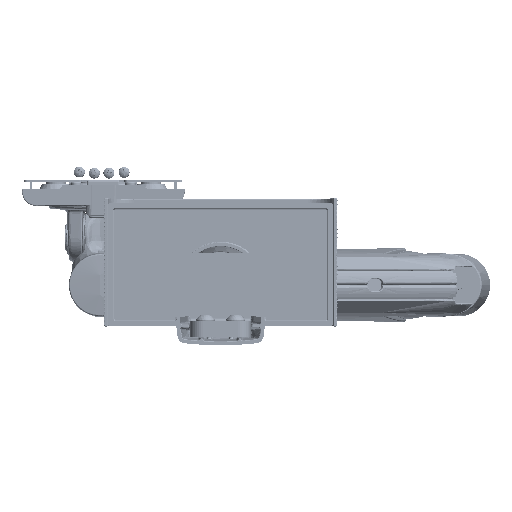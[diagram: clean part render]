
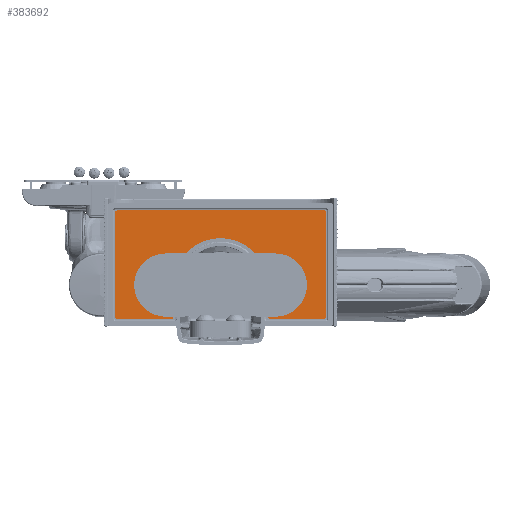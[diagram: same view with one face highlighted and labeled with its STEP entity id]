
A CAD part, front view. The second image highlights one B-rep face of the part: STEP entity #383692.
In plain terms, the highlighted planar face has unit normal (0, -1, 0).
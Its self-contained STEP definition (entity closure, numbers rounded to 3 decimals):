
#42203=LINE('',#876486,#66081);
#42206=LINE('',#876495,#66084);
#42209=LINE('',#876504,#66087);
#42215=LINE('',#876519,#66093);
#42217=LINE('',#876525,#66095);
#42219=LINE('',#876531,#66097);
#42220=LINE('',#876533,#66098);
#66081=VECTOR('',#470030,10.);
#66084=VECTOR('',#470041,10.);
#66087=VECTOR('',#470050,10.);
#66093=VECTOR('',#470066,10.);
#66095=VECTOR('',#470074,10.);
#66097=VECTOR('',#470082,10.);
#66098=VECTOR('',#470085,10.);
#97036=FACE_OUTER_BOUND('',#119599,.T.);
#119599=EDGE_LOOP('',(#297396,#297397,#297398,#297399,#297400,#297401,#297402,
#297403,#297404,#297405,#297406,#297407,#297408,#297409));
#136759=CIRCLE('',#411000,2.);
#136760=CIRCLE('',#411004,2.);
#136761=CIRCLE('',#411007,2.);
#136762=CIRCLE('',#411010,2.);
#136763=CIRCLE('',#411012,2.);
#136764=CIRCLE('',#411015,2.);
#136765=CIRCLE('',#411018,34.5);
#160326=VERTEX_POINT('',#876478);
#160327=VERTEX_POINT('',#876480);
#160328=VERTEX_POINT('',#876484);
#160329=VERTEX_POINT('',#876489);
#160330=VERTEX_POINT('',#876493);
#160331=VERTEX_POINT('',#876497);
#160332=VERTEX_POINT('',#876499);
#160333=VERTEX_POINT('',#876503);
#160334=VERTEX_POINT('',#876507);
#160335=VERTEX_POINT('',#876511);
#160336=VERTEX_POINT('',#876513);
#160337=VERTEX_POINT('',#876517);
#160338=VERTEX_POINT('',#876521);
#160339=VERTEX_POINT('',#876527);
#207896=EDGE_CURVE('',#160326,#160327,#136759,.T.);
#207899=EDGE_CURVE('',#160328,#160326,#42203,.T.);
#207901=EDGE_CURVE('',#160329,#160328,#136760,.T.);
#207903=EDGE_CURVE('',#160330,#160329,#42206,.T.);
#207905=EDGE_CURVE('',#160331,#160332,#136761,.T.);
#207907=EDGE_CURVE('',#160332,#160333,#42209,.T.);
#207909=EDGE_CURVE('',#160333,#160334,#136762,.T.);
#207912=EDGE_CURVE('',#160335,#160336,#136763,.T.);
#207915=EDGE_CURVE('',#160337,#160335,#42215,.T.);
#207917=EDGE_CURVE('',#160338,#160330,#136764,.T.);
#207918=EDGE_CURVE('',#160336,#160338,#42217,.T.);
#207919=EDGE_CURVE('',#160339,#160337,#136765,.T.);
#207921=EDGE_CURVE('',#160334,#160339,#42219,.T.);
#207922=EDGE_CURVE('',#160327,#160331,#42220,.T.);
#297396=ORIENTED_EDGE('',*,*,#207896,.F.);
#297397=ORIENTED_EDGE('',*,*,#207899,.F.);
#297398=ORIENTED_EDGE('',*,*,#207901,.F.);
#297399=ORIENTED_EDGE('',*,*,#207903,.F.);
#297400=ORIENTED_EDGE('',*,*,#207917,.F.);
#297401=ORIENTED_EDGE('',*,*,#207918,.F.);
#297402=ORIENTED_EDGE('',*,*,#207912,.F.);
#297403=ORIENTED_EDGE('',*,*,#207915,.F.);
#297404=ORIENTED_EDGE('',*,*,#207919,.F.);
#297405=ORIENTED_EDGE('',*,*,#207921,.F.);
#297406=ORIENTED_EDGE('',*,*,#207909,.F.);
#297407=ORIENTED_EDGE('',*,*,#207907,.F.);
#297408=ORIENTED_EDGE('',*,*,#207905,.F.);
#297409=ORIENTED_EDGE('',*,*,#207922,.F.);
#344060=PLANE('',#411021);
#383692=ADVANCED_FACE('',(#97036),#344060,.F.);
#411000=AXIS2_PLACEMENT_3D('',#876481,#470024,#470025);
#411004=AXIS2_PLACEMENT_3D('',#876491,#470036,#470037);
#411007=AXIS2_PLACEMENT_3D('',#876500,#470045,#470046);
#411010=AXIS2_PLACEMENT_3D('',#876508,#470054,#470055);
#411012=AXIS2_PLACEMENT_3D('',#876514,#470060,#470061);
#411015=AXIS2_PLACEMENT_3D('',#876523,#470070,#470071);
#411018=AXIS2_PLACEMENT_3D('',#876528,#470077,#470078);
#411021=AXIS2_PLACEMENT_3D('',#876534,#470086,#470087);
#470024=DIRECTION('center_axis',(0.,1.,0.));
#470025=DIRECTION('ref_axis',(0.707,0.,0.707));
#470030=DIRECTION('',(1.,0.,0.));
#470036=DIRECTION('center_axis',(0.,1.,0.));
#470037=DIRECTION('ref_axis',(-0.707,0.,
0.707));
#470041=DIRECTION('',(0.,0.,1.));
#470045=DIRECTION('center_axis',(0.,1.,0.));
#470046=DIRECTION('ref_axis',(0.707,0.,-0.707));
#470050=DIRECTION('',(-1.,0.,0.));
#470054=DIRECTION('center_axis',(0.,1.,0.));
#470055=DIRECTION('ref_axis',(-0.707,0.,-0.707));
#470060=DIRECTION('center_axis',(0.,1.,0.));
#470061=DIRECTION('ref_axis',(0.707,0.,-0.707));
#470066=DIRECTION('',(0.,0.,-1.));
#470070=DIRECTION('center_axis',(0.,1.,0.));
#470071=DIRECTION('ref_axis',(-0.707,0.,
-0.707));
#470074=DIRECTION('',(-1.,0.,0.));
#470077=DIRECTION('center_axis',(0.,-1.,0.));
#470078=DIRECTION('ref_axis',(1.,0.,0.));
#470082=DIRECTION('',(0.,0.,1.));
#470085=DIRECTION('',(0.,0.,-1.));
#470086=DIRECTION('center_axis',(0.,1.,0.));
#470087=DIRECTION('ref_axis',(0.,0.,
1.));
#876478=CARTESIAN_POINT('',(75.5,-0.75,55.));
#876480=CARTESIAN_POINT('',(77.5,-0.75,53.));
#876481=CARTESIAN_POINT('Origin',(75.5,-0.75,53.));
#876484=CARTESIAN_POINT('',(-75.5,-0.75,55.));
#876486=CARTESIAN_POINT('',(-77.5,-0.75,55.));
#876489=CARTESIAN_POINT('',(-77.5,-0.75,53.));
#876491=CARTESIAN_POINT('Origin',(-75.5,-0.75,53.));
#876493=CARTESIAN_POINT('',(-77.5,-0.75,-23.));
#876495=CARTESIAN_POINT('',(-77.5,-0.75,-25.));
#876497=CARTESIAN_POINT('',(77.5,-0.75,-23.));
#876499=CARTESIAN_POINT('',(75.5,-0.75,-25.));
#876500=CARTESIAN_POINT('Origin',(75.5,-0.75,-23.));
#876503=CARTESIAN_POINT('',(36.5,-0.75,-25.));
#876504=CARTESIAN_POINT('',(77.5,-0.75,-25.));
#876507=CARTESIAN_POINT('',(34.5,-0.75,-23.));
#876508=CARTESIAN_POINT('Origin',(36.5,-0.75,-23.));
#876511=CARTESIAN_POINT('',(-34.5,-0.75,-23.));
#876513=CARTESIAN_POINT('',(-36.5,-0.75,-25.));
#876514=CARTESIAN_POINT('Origin',(-36.5,-0.75,-23.));
#876517=CARTESIAN_POINT('',(-34.5,-0.75,0.));
#876519=CARTESIAN_POINT('',(-34.5,-0.75,0.));
#876521=CARTESIAN_POINT('',(-75.5,-0.75,-25.));
#876523=CARTESIAN_POINT('Origin',(-75.5,-0.75,-23.));
#876525=CARTESIAN_POINT('',(-34.5,-0.75,-25.));
#876527=CARTESIAN_POINT('',(34.5,-0.75,0.));
#876528=CARTESIAN_POINT('Origin',(0.,-0.75,
0.));
#876531=CARTESIAN_POINT('',(34.5,-0.75,-25.));
#876533=CARTESIAN_POINT('',(77.5,-0.75,55.));
#876534=CARTESIAN_POINT('Origin',(0.,-0.75,
15.));
